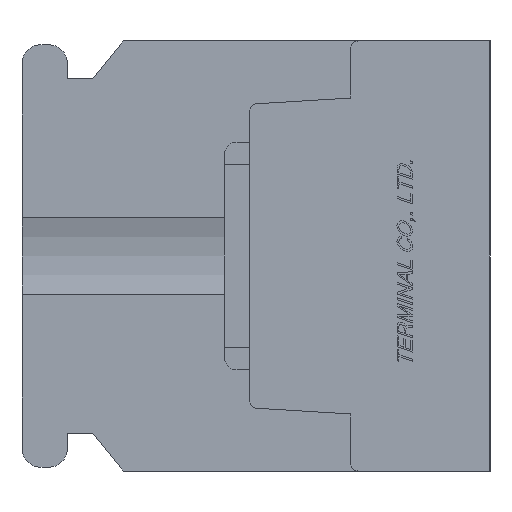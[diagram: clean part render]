
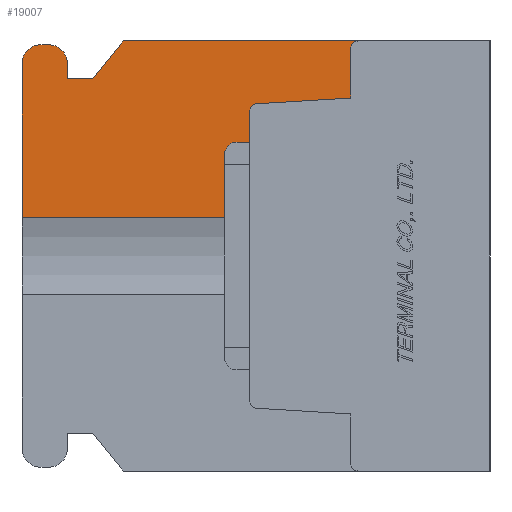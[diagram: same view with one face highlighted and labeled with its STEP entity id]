
A CAD part, left-side view. The second image highlights one B-rep face of the part: STEP entity #19007.
In plain terms, the highlighted planar face has unit normal (-1, 0, 0).
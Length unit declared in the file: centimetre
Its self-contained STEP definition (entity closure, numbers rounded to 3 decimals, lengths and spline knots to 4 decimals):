
#1555=VECTOR('',#21788,1.);
#1557=VECTOR('',#21791,1.);
#1559=VECTOR('',#21798,1.);
#1560=VECTOR('',#21799,1.);
#1561=VECTOR('',#21800,1.);
#1562=VECTOR('',#21801,1.);
#1563=VECTOR('',#21802,1.);
#1564=VECTOR('',#21805,1.);
#1565=VECTOR('',#21808,1.);
#1566=VECTOR('',#21809,1.);
#3617=LINE('',#28201,#1555);
#3619=LINE('',#28205,#1557);
#3621=LINE('',#28211,#1559);
#3622=LINE('',#28213,#1560);
#3623=LINE('',#28215,#1561);
#3624=LINE('',#28217,#1562);
#3625=LINE('',#28219,#1563);
#3626=LINE('',#28223,#1564);
#3627=LINE('',#28227,#1565);
#3628=LINE('',#28229,#1566);
#5726=VERTEX_POINT('',#28194);
#5727=VERTEX_POINT('',#28196);
#5728=VERTEX_POINT('',#28200);
#5729=VERTEX_POINT('',#28204);
#5730=VERTEX_POINT('',#28208);
#5731=VERTEX_POINT('',#28212);
#5732=VERTEX_POINT('',#28214);
#5733=VERTEX_POINT('',#28216);
#5734=VERTEX_POINT('',#28218);
#5735=VERTEX_POINT('',#28220);
#5736=VERTEX_POINT('',#28222);
#5737=VERTEX_POINT('',#28224);
#5738=VERTEX_POINT('',#28226);
#5739=VERTEX_POINT('',#28228);
#6927=CIRCLE('',#32326,0.03);
#6928=CIRCLE('',#32330,0.03);
#6929=CIRCLE('',#32332,0.075);
#6930=CIRCLE('',#32333,0.075);
#8567=EDGE_CURVE('',#5727,#5726,#6927,.T.);
#8570=EDGE_CURVE('',#5726,#5728,#3617,.T.);
#8572=EDGE_CURVE('',#5728,#5729,#3619,.T.);
#8574=EDGE_CURVE('',#5729,#5730,#6928,.T.);
#8575=EDGE_CURVE('',#5731,#5727,#3621,.T.);
#8576=EDGE_CURVE('',#5732,#5730,#3622,.T.);
#8577=EDGE_CURVE('',#5733,#5732,#3623,.T.);
#8578=EDGE_CURVE('',#5734,#5733,#3624,.T.);
#8579=EDGE_CURVE('',#5735,#5734,#3625,.T.);
#8580=EDGE_CURVE('',#5736,#5735,#6929,.T.);
#8581=EDGE_CURVE('',#5737,#5736,#3626,.T.);
#8582=EDGE_CURVE('',#5738,#5737,#6930,.T.);
#8583=EDGE_CURVE('',#5739,#5738,#3627,.T.);
#8584=EDGE_CURVE('',#5739,#5731,#3628,.T.);
#12652=ORIENTED_EDGE('',*,*,#8575,.T.);
#12653=ORIENTED_EDGE('',*,*,#8567,.T.);
#12654=ORIENTED_EDGE('',*,*,#8570,.T.);
#12655=ORIENTED_EDGE('',*,*,#8572,.T.);
#12656=ORIENTED_EDGE('',*,*,#8574,.T.);
#12657=ORIENTED_EDGE('',*,*,#8576,.F.);
#12658=ORIENTED_EDGE('',*,*,#8577,.F.);
#12659=ORIENTED_EDGE('',*,*,#8578,.F.);
#12660=ORIENTED_EDGE('',*,*,#8579,.F.);
#12661=ORIENTED_EDGE('',*,*,#8580,.F.);
#12662=ORIENTED_EDGE('',*,*,#8581,.F.);
#12663=ORIENTED_EDGE('',*,*,#8582,.F.);
#12664=ORIENTED_EDGE('',*,*,#8583,.F.);
#12665=ORIENTED_EDGE('',*,*,#8584,.T.);
#16665=EDGE_LOOP('',(#12652,#12653,#12654,#12655,#12656,#12657,#12658,#12659,
#12660,#12661,#12662,#12663,#12664,#12665));
#17863=FACE_BOUND('',#16665,.T.);
#19007=ADVANCED_FACE('',(#17863),#19944,.F.);
#19944=PLANE('',#32331);
#21783=DIRECTION('',(1.,0.,0.));
#21784=DIRECTION('',(0.,0.,0.03));
#21788=DIRECTION('',(0.,-0.998,0.061));
#21791=DIRECTION('',(0.,0.,1.));
#21795=DIRECTION('',(1.,0.,0.));
#21796=DIRECTION('',(0.,0.,0.03));
#21797=DIRECTION('',(1.,0.,0.));
#21798=DIRECTION('',(0.,0.,1.));
#21799=DIRECTION('',(0.,-1.,0.));
#21800=DIRECTION('',(0.,-0.625,0.781));
#21801=DIRECTION('',(0.,-1.,0.));
#21802=DIRECTION('',(0.,0.,-1.));
#21803=DIRECTION('',(1.,0.,0.));
#21804=DIRECTION('',(0.,0.,-0.075));
#21805=DIRECTION('',(0.,-1.,0.));
#21806=DIRECTION('',(1.,0.,0.));
#21807=DIRECTION('',(0.,0.,-0.075));
#21808=DIRECTION('',(0.,0.,1.));
#21809=DIRECTION('',(0.,-1.,0.));
#28194=CARTESIAN_POINT('',(-1.1,0.9218,0.6017));
#28195=CARTESIAN_POINT('',(-1.1,0.92,0.5718));
#28196=CARTESIAN_POINT('',(-1.1,0.95,0.5718));
#28200=CARTESIAN_POINT('',(-1.1,0.55,0.6245));
#28201=CARTESIAN_POINT('',(-1.1,0.859,0.6056));
#28204=CARTESIAN_POINT('',(-1.1,0.55,0.82));
#28205=CARTESIAN_POINT('',(-1.1,0.55,0.3611));
#28208=CARTESIAN_POINT('',(-1.1,0.52,0.85));
#28209=CARTESIAN_POINT('',(-1.1,0.52,0.82));
#28210=CARTESIAN_POINT('',(-1.1,0.9454,0.));
#28211=CARTESIAN_POINT('',(-1.1,0.95,0.));
#28212=CARTESIAN_POINT('',(-1.1,0.95,0.1521));
#28213=CARTESIAN_POINT('',(-1.1,1.45,0.85));
#28214=CARTESIAN_POINT('',(-1.1,1.45,0.85));
#28215=CARTESIAN_POINT('',(-1.1,1.57,0.7));
#28216=CARTESIAN_POINT('',(-1.1,1.57,0.7));
#28217=CARTESIAN_POINT('',(-1.1,1.67,0.7));
#28218=CARTESIAN_POINT('',(-1.1,1.67,0.7));
#28219=CARTESIAN_POINT('',(-1.1,1.67,0.76));
#28220=CARTESIAN_POINT('',(-1.1,1.67,0.76));
#28221=CARTESIAN_POINT('',(-1.1,1.745,0.76));
#28222=CARTESIAN_POINT('',(-1.1,1.745,0.835));
#28223=CARTESIAN_POINT('',(-1.1,1.775,0.835));
#28224=CARTESIAN_POINT('',(-1.1,1.775,0.835));
#28225=CARTESIAN_POINT('',(-1.1,1.775,0.76));
#28226=CARTESIAN_POINT('',(-1.1,1.85,0.76));
#28227=CARTESIAN_POINT('',(-1.1,1.85,-0.76));
#28228=CARTESIAN_POINT('',(-1.1,1.85,0.1521));
#28229=CARTESIAN_POINT('',(-1.1,1.4,0.1521));
#32326=AXIS2_PLACEMENT_3D('',#28195,#21783,#21784);
#32330=AXIS2_PLACEMENT_3D('',#28209,#21795,#21796);
#32331=AXIS2_PLACEMENT_3D('',#28210,#21797,$);
#32332=AXIS2_PLACEMENT_3D('',#28221,#21803,#21804);
#32333=AXIS2_PLACEMENT_3D('',#28225,#21806,#21807);
